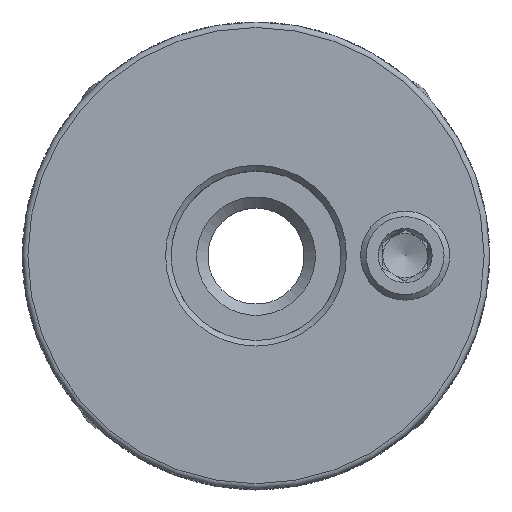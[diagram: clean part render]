
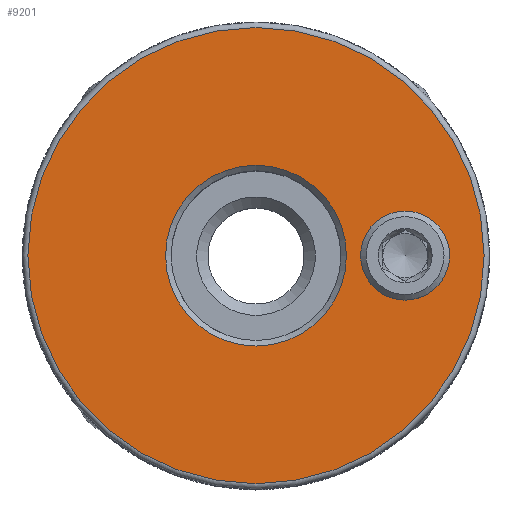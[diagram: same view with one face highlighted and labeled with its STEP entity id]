
A CAD part, top view. The second image highlights one B-rep face of the part: STEP entity #9201.
In plain terms, the highlighted planar face has unit normal (0, 0, 1).
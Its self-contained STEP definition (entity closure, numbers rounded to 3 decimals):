
#4556=ORIENTED_EDGE('',*,*,#5965,.T.);
#4557=ORIENTED_EDGE('',*,*,#5966,.T.);
#4558=ORIENTED_EDGE('',*,*,#5967,.F.);
#5965=EDGE_CURVE('',#6876,#6876,#7238,.T.);
#5966=EDGE_CURVE('',#6877,#6877,#7239,.F.);
#5967=EDGE_CURVE('',#6878,#6878,#7240,.T.);
#6876=VERTEX_POINT('',#15581);
#6877=VERTEX_POINT('',#15583);
#6878=VERTEX_POINT('',#15585);
#7238=CIRCLE('',#10060,16.25);
#7239=CIRCLE('',#10061,41.);
#7240=CIRCLE('',#10062,8.);
#7758=EDGE_LOOP('',(#4556));
#7759=EDGE_LOOP('',(#4557));
#7760=EDGE_LOOP('',(#4558));
#8356=FACE_BOUND('',#7758,.T.);
#8357=FACE_BOUND('',#7759,.T.);
#8358=FACE_BOUND('',#7760,.T.);
#8758=PLANE('',#10059);
#9201=ADVANCED_FACE('',(#8356,#8357,#8358),#8758,.F.);
#10059=AXIS2_PLACEMENT_3D('',#15579,#12511,#12512);
#10060=AXIS2_PLACEMENT_3D('',#15580,#12513,#12514);
#10061=AXIS2_PLACEMENT_3D('',#15582,#12515,#12516);
#10062=AXIS2_PLACEMENT_3D('',#15584,#12517,#12518);
#12511=DIRECTION('',(0.,0.,-1.));
#12512=DIRECTION('',(-1.,0.,0.));
#12513=DIRECTION('',(0.,0.,-1.));
#12514=DIRECTION('',(-1.,0.,0.));
#12515=DIRECTION('',(0.,0.,-1.));
#12516=DIRECTION('',(-1.,0.,0.));
#12517=DIRECTION('',(0.,0.,1.));
#12518=DIRECTION('',(1.,0.,0.));
#15579=CARTESIAN_POINT('',(42.,0.,42.));
#15580=CARTESIAN_POINT('',(0.,0.,42.));
#15581=CARTESIAN_POINT('',(-16.25,0.,42.));
#15582=CARTESIAN_POINT('',(0.,0.,42.));
#15583=CARTESIAN_POINT('',(-41.,0.,42.));
#15584=CARTESIAN_POINT('',(26.8,0.,42.));
#15585=CARTESIAN_POINT('',(34.8,0.,42.));
